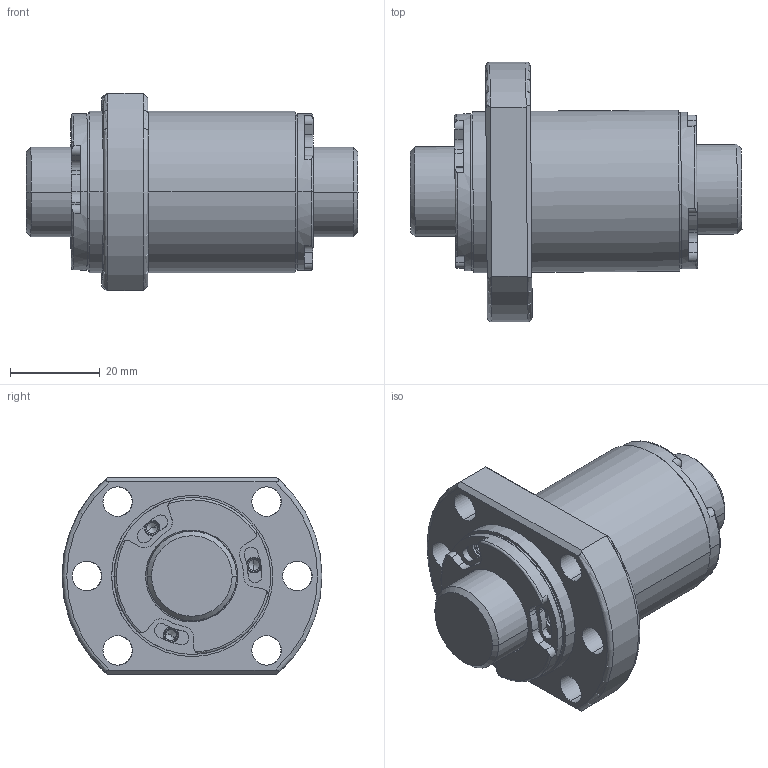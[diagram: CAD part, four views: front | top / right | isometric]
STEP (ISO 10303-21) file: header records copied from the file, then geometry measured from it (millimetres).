
FILE_DESCRIPTION (( 'STEP AP203' ), '1' );
FILE_NAME ('SFHR02020A1D-C.STEP', '2020-06-17T07:58:55', ( '' ), ( '' ), 'SwSTEP 2.0', 'SolidWorks 2013', '' );
FILE_SCHEMA (( 'CONFIG_CONTROL_DESIGN' ));
Length unit declared in the file: millimetre
Products named in the file (1): SFHR02020A1D-C
Bounding box: 74.14 x 58.06 x 44 mm (x, y, z)
Volume: 66849.1 mm3; surface area: 21030.7 mm2
Topology: 2 solids, 2 shells, 241 faces, 614 edges, 386 vertices
Faces by surface type: cylinder 132, plane 69, cone 28, torus 12
Entity records: 7711 total; most frequent: CARTESIAN_POINT 1550, DIRECTION 1426, ORIENTED_EDGE 1204, AXIS2_PLACEMENT_3D 606, EDGE_CURVE 602, VERTEX_POINT 386, CIRCLE 364, EDGE_LOOP 278
